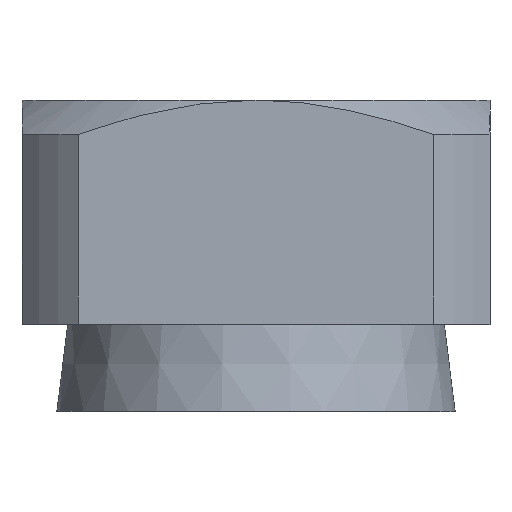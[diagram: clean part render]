
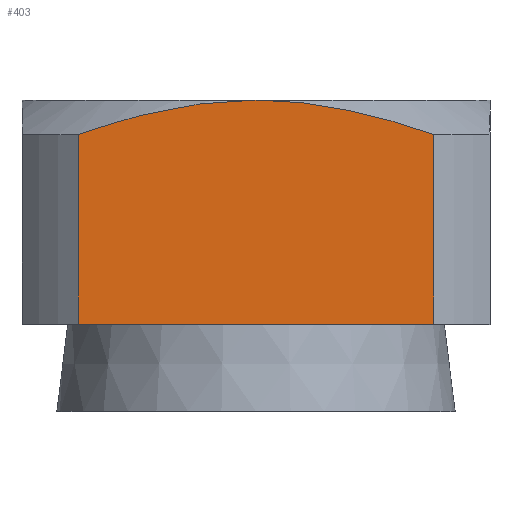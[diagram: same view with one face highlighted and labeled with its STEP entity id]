
A CAD part, top view. The second image highlights one B-rep face of the part: STEP entity #403.
In plain terms, the highlighted planar face has unit normal (0, 0, 1).
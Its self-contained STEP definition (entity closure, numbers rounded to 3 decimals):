
#19=(
BOUNDED_CURVE()
B_SPLINE_CURVE(2,(#728,#729,#730),.UNSPECIFIED.,.F.,.F.)
B_SPLINE_CURVE_WITH_KNOTS((3,3),(0.971,1.746),
 .UNSPECIFIED.)
CURVE()
GEOMETRIC_REPRESENTATION_ITEM()
RATIONAL_B_SPLINE_CURVE((1.,1.079,1.032))
REPRESENTATION_ITEM('')
);
#21=(
BOUNDED_CURVE()
B_SPLINE_CURVE(2,(#740,#741,#742),.UNSPECIFIED.,.F.,.F.)
B_SPLINE_CURVE_WITH_KNOTS((3,3),(0.197,0.971),
 .UNSPECIFIED.)
CURVE()
GEOMETRIC_REPRESENTATION_ITEM()
RATIONAL_B_SPLINE_CURVE((1.032,1.079,1.))
REPRESENTATION_ITEM('')
);
#36=PLANE('',#482);
#67=FACE_OUTER_BOUND('',#95,.T.);
#95=EDGE_LOOP('',(#362,#363,#364,#365,#366));
#106=LINE('',#670,#124);
#111=LINE('',#697,#129);
#114=LINE('',#706,#132);
#124=VECTOR('',#544,10.);
#129=VECTOR('',#577,10.);
#132=VECTOR('',#586,10.);
#177=VERTEX_POINT('',#655);
#184=VERTEX_POINT('',#668);
#192=VERTEX_POINT('',#695);
#195=VERTEX_POINT('',#705);
#199=VERTEX_POINT('',#727);
#226=EDGE_CURVE('',#184,#177,#106,.T.);
#239=EDGE_CURVE('',#184,#192,#111,.T.);
#243=EDGE_CURVE('',#195,#177,#114,.T.);
#250=EDGE_CURVE('',#199,#195,#19,.T.);
#255=EDGE_CURVE('',#192,#199,#21,.T.);
#362=ORIENTED_EDGE('',*,*,#243,.T.);
#363=ORIENTED_EDGE('',*,*,#226,.F.);
#364=ORIENTED_EDGE('',*,*,#239,.T.);
#365=ORIENTED_EDGE('',*,*,#255,.T.);
#366=ORIENTED_EDGE('',*,*,#250,.T.);
#403=ADVANCED_FACE('',(#67),#36,.T.);
#482=AXIS2_PLACEMENT_3D('',#749,#612,#613);
#544=DIRECTION('',(-1.,0.,0.));
#577=DIRECTION('',(0.,1.,0.));
#586=DIRECTION('',(0.,-1.,0.));
#612=DIRECTION('center_axis',(0.,0.,1.));
#613=DIRECTION('ref_axis',(-1.,0.,0.));
#655=CARTESIAN_POINT('',(-7.133,-9.,9.4));
#668=CARTESIAN_POINT('',(7.133,-9.,9.4));
#670=CARTESIAN_POINT('',(-9.4,-9.,9.4));
#695=CARTESIAN_POINT('',(7.133,-1.386,9.4));
#697=CARTESIAN_POINT('',(7.133,-4.5,9.4));
#705=CARTESIAN_POINT('',(-7.133,-1.386,9.4));
#706=CARTESIAN_POINT('',(-7.133,-4.5,9.4));
#727=CARTESIAN_POINT('',(0.,0.,9.4));
#728=CARTESIAN_POINT('Ctrl Pts',(0.,0.,
9.4));
#729=CARTESIAN_POINT('Ctrl Pts',(-3.163,0.,
9.4));
#730=CARTESIAN_POINT('Ctrl Pts',(-7.133,-1.386,9.4));
#740=CARTESIAN_POINT('Ctrl Pts',(7.133,-1.386,9.4));
#741=CARTESIAN_POINT('Ctrl Pts',(3.163,0.,
9.4));
#742=CARTESIAN_POINT('Ctrl Pts',(0.,0.,
9.4));
#749=CARTESIAN_POINT('Origin',(9.4,0.,9.4));
